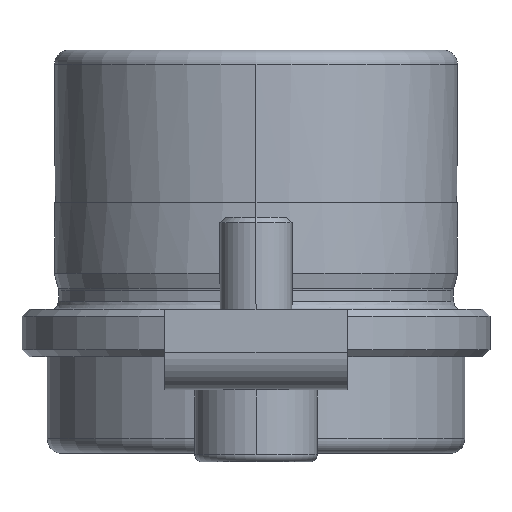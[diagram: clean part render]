
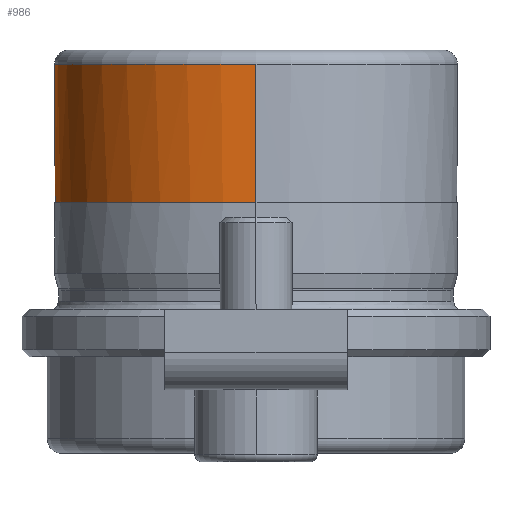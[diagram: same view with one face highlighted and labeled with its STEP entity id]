
A CAD part, left-side view. The second image highlights one B-rep face of the part: STEP entity #986.
In plain terms, the highlighted cylindrical face has radius 13.99 mm (diameter 27.98 mm), a partial arc.
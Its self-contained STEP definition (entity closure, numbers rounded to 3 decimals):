
#917=CARTESIAN_POINT('',(0.0,0.,12.2));
#918=DIRECTION('',(0.0,0.,-1.0));
#919=DIRECTION('',(1.0,0.0,0.0));
#920=AXIS2_PLACEMENT_3D('',#917,#918,#919);
#921=CYLINDRICAL_SURFACE('',#920,13.99);
#922=CARTESIAN_POINT('',(13.99,0.,8.6));
#923=VERTEX_POINT('',#922);
#924=CARTESIAN_POINT('',(13.99,0.,17.0));
#925=VERTEX_POINT('',#924);
#926=CARTESIAN_POINT('',(13.99,0.,8.6));
#927=DIRECTION('',(0.0,0.0,1.0));
#928=VECTOR('',#927,8.4);
#929=LINE('',#926,#928);
#930=EDGE_CURVE('',#923,#925,#929,.T.);
#931=ORIENTED_EDGE('',*,*,#930,.F.);
#932=CARTESIAN_POINT('',(13.817,2.191,7.4));
#933=VERTEX_POINT('',#932);
#934=CARTESIAN_POINT('',(13.99,0.,8.6));
#935=CARTESIAN_POINT('',(13.99,0.164,8.6));
#936=CARTESIAN_POINT('',(13.987,0.333,8.584));
#937=CARTESIAN_POINT('',(13.975,0.669,8.518));
#938=CARTESIAN_POINT('',(13.966,0.836,8.468));
#939=CARTESIAN_POINT('',(13.943,1.156,8.335));
#940=CARTESIAN_POINT('',(13.929,1.31,8.253));
#941=CARTESIAN_POINT('',(13.9,1.593,8.062));
#942=CARTESIAN_POINT('',(13.884,1.723,7.954));
#943=CARTESIAN_POINT('',(13.853,1.954,7.723));
#944=CARTESIAN_POINT('',(13.838,2.062,7.593));
#945=CARTESIAN_POINT('',(13.821,2.169,7.434));
#946=CARTESIAN_POINT('',(13.819,2.18,7.417));
#947=CARTESIAN_POINT('',(13.817,2.191,7.4));
#948=B_SPLINE_CURVE_WITH_KNOTS('',3,(#934,#935,#936,#937,#938,#939,#940,#941,#942,#943,#944,#945,#946,#947),.UNSPECIFIED.,.F.,.U.,(4,2,2,2,2,2,4),(3.927,4.418,4.909,5.4,5.891,6.382,6.441),.UNSPECIFIED.);
#949=EDGE_CURVE('',#923,#933,#948,.T.);
#950=ORIENTED_EDGE('',*,*,#949,.T.);
#951=CARTESIAN_POINT('',(-13.99,0.,7.4));
#952=VERTEX_POINT('',#951);
#953=CARTESIAN_POINT('',(0.0,0.,7.4));
#954=DIRECTION('',(0.0,0.0,-1.0));
#955=DIRECTION('',(1.0,0.0,0.0));
#956=AXIS2_PLACEMENT_3D('',#953,#954,#955);
#957=CIRCLE('',#956,13.99);
#958=EDGE_CURVE('',#952,#933,#957,.T.);
#959=ORIENTED_EDGE('',*,*,#958,.F.);
#960=CARTESIAN_POINT('',(-13.99,0.,17.0));
#961=VERTEX_POINT('',#960);
#962=CARTESIAN_POINT('',(-13.99,0.,7.4));
#963=DIRECTION('',(0.0,0.0,1.0));
#964=VECTOR('',#963,9.6);
#965=LINE('',#962,#964);
#966=EDGE_CURVE('',#952,#961,#965,.T.);
#967=ORIENTED_EDGE('',*,*,#966,.T.);
#968=CARTESIAN_POINT('',(0.0,13.99,17.));
#969=VERTEX_POINT('',#968);
#970=CARTESIAN_POINT('',(0.0,0.,17.0));
#971=DIRECTION('',(0.0,0.0,-1.0));
#972=DIRECTION('',(1.0,0.0,0.0));
#973=AXIS2_PLACEMENT_3D('',#970,#971,#972);
#974=CIRCLE('',#973,13.99);
#975=EDGE_CURVE('',#961,#969,#974,.T.);
#976=ORIENTED_EDGE('',*,*,#975,.T.);
#977=CARTESIAN_POINT('',(0.0,0.,17.0));
#978=DIRECTION('',(0.0,0.0,-1.0));
#979=DIRECTION('',(1.0,0.0,0.0));
#980=AXIS2_PLACEMENT_3D('',#977,#978,#979);
#981=CIRCLE('',#980,13.99);
#982=EDGE_CURVE('',#969,#925,#981,.T.);
#983=ORIENTED_EDGE('',*,*,#982,.T.);
#984=EDGE_LOOP('',(#931,#950,#959,#967,#976,#983));
#985=FACE_OUTER_BOUND('',#984,.T.);
#986=ADVANCED_FACE('',(#985),#921,.T.);
